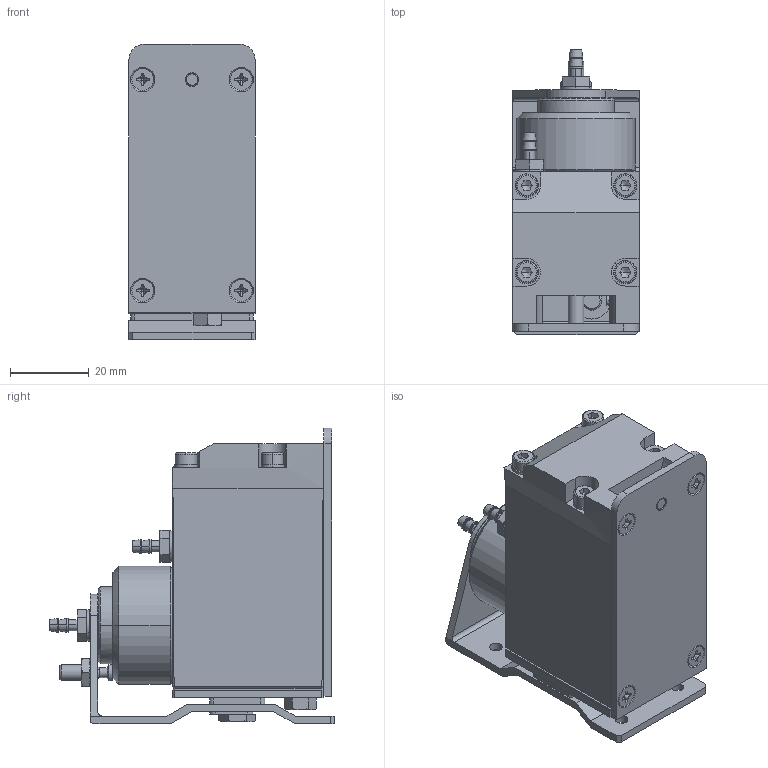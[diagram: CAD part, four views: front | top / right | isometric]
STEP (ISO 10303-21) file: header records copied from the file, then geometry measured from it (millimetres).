
FILE_DESCRIPTION (( 'STEP AP214' ), '1' );
FILE_NAME ('GT-NT05R.STEP', '2019-11-27T08:39:21', ( '微软用户' ), ( '微软中国' ), 'SwSTEP 2.0', 'SolidWorks 2016', '' );
FILE_SCHEMA (( 'AUTOMOTIVE_DESIGN' ));
Length unit declared in the file: millimetre
Products named in the file (1): GT-NT05R
Bounding box: 32 x 72.3 x 75 mm (x, y, z)
Surface area: 33115.4 mm2 (no closed solid volume)
Topology: 0 solids, 124 shells, 1146 faces, 2967 edges, 2000 vertices
Faces by surface type: plane 528, cylinder 319, bspline 183, cone 92, torus 24
Entity records: 53267 total; most frequent: CARTESIAN_POINT 20626, ORIENTED_EDGE 5386, DIRECTION 4821, EDGE_CURVE 2931, VERTEX_POINT 2000, AXIS2_PLACEMENT_3D 1801, EDGE_LOOP 1291, LINE 1219
